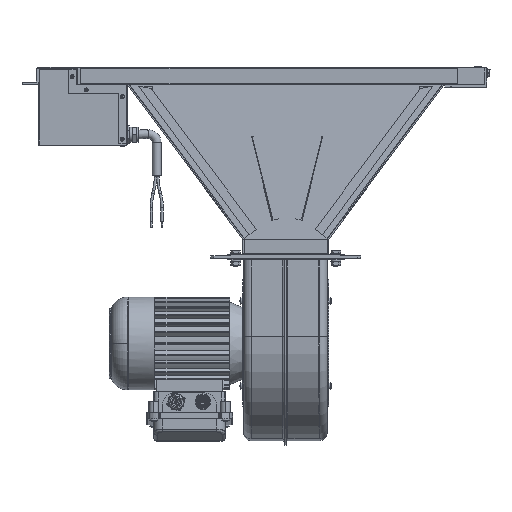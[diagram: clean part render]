
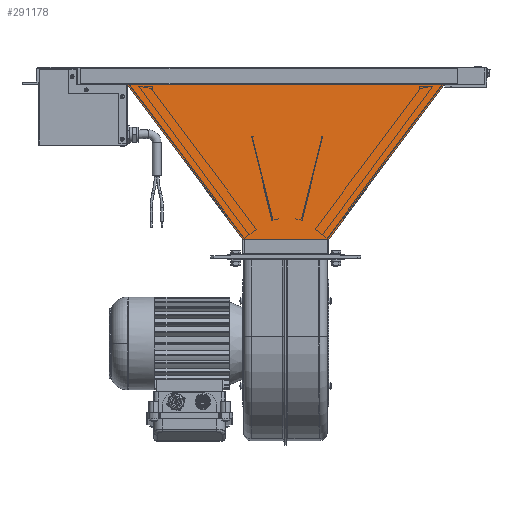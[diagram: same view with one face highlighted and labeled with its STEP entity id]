
A CAD part, front view. The second image highlights one B-rep face of the part: STEP entity #291178.
In plain terms, the highlighted planar face has unit normal (0, -0.997, 0.081).
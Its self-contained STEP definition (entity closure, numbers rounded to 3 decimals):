
#95916=VECTOR('',#172650,1.);
#96090=VECTOR('',#173000,1.);
#96102=VECTOR('',#173018,1.);
#96103=VECTOR('',#173019,1.);
#101039=LINE('',#216659,#95916);
#101213=LINE('',#217071,#96090);
#101225=LINE('',#217095,#96102);
#101226=LINE('',#217096,#96103);
#118510=ORIENTED_EDGE('',*,*,#142006,.F.);
#118511=ORIENTED_EDGE('',*,*,#142227,.F.);
#118512=ORIENTED_EDGE('',*,*,#142213,.T.);
#118513=ORIENTED_EDGE('',*,*,#142228,.F.);
#132088=VERTEX_POINT('',#216647);
#132091=VERTEX_POINT('',#216657);
#132240=VERTEX_POINT('',#217069);
#132241=VERTEX_POINT('',#217070);
#142006=EDGE_CURVE('',#132088,#132091,#101039,.T.);
#142213=EDGE_CURVE('',#132240,#132241,#101213,.T.);
#142227=EDGE_CURVE('',#132240,#132088,#101225,.T.);
#142228=EDGE_CURVE('',#132091,#132241,#101226,.T.);
#148423=EDGE_LOOP('',(#118510,#118511,#118512,#118513));
#153767=FACE_BOUND('',#148423,.T.);
#172650=DIRECTION('',(-103.,0.,0.));
#173000=DIRECTION('',(-380.,0.,0.));
#173016=DIRECTION('',(0.,-0.997,0.081));
#173017=DIRECTION('',(-0.997,0.,0.));
#173018=DIRECTION('',(-138.5,-14.997,-185.011));
#173019=DIRECTION('',(-138.5,14.997,185.011));
#216647=CARTESIAN_POINT('',(-92.636,23.599,419.209));
#216657=CARTESIAN_POINT('',(-195.636,23.599,419.209));
#216659=CARTESIAN_POINT('',(-92.636,23.599,419.209));
#217069=CARTESIAN_POINT('',(45.864,38.596,604.22));
#217070=CARTESIAN_POINT('',(-334.136,38.596,604.22));
#217071=CARTESIAN_POINT('',(45.864,38.596,604.22));
#217094=CARTESIAN_POINT('',(45.864,38.596,604.22));
#217095=CARTESIAN_POINT('',(45.864,38.596,604.22));
#217096=CARTESIAN_POINT('',(-195.636,23.599,419.209));
#284127=AXIS2_PLACEMENT_3D('',#217094,#173016,#173017);
#287550=PLANE('',#284127);
#291178=ADVANCED_FACE('',(#153767),#287550,.T.);
